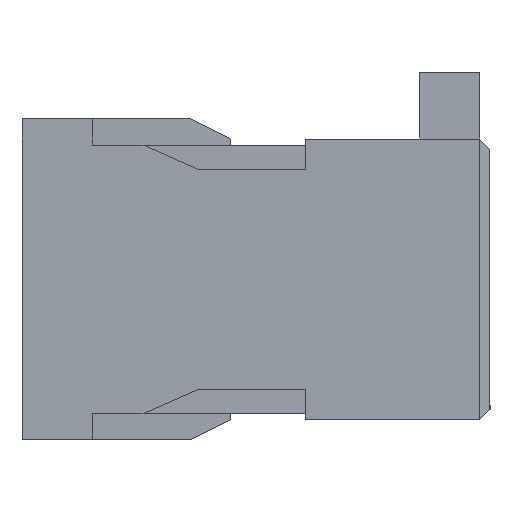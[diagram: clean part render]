
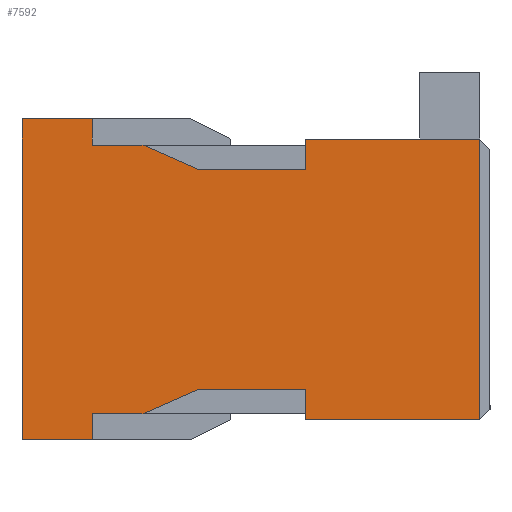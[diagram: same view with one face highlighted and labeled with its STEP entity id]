
A CAD part, left-side view. The second image highlights one B-rep face of the part: STEP entity #7592.
In plain terms, the highlighted planar face has unit normal (-1, 0, 0).
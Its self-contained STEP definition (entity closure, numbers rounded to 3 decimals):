
#5=DIRECTION('',(0.,1.,0.));
#6=VECTOR('',#5,0.76);
#7=CARTESIAN_POINT('',(6.,5.19,-0.39));
#8=LINE('',#7,#6);
#109=DIRECTION('',(0.,1.,0.));
#110=VECTOR('',#109,2.61);
#111=CARTESIAN_POINT('',(6.,0.15,
-0.3));
#112=LINE('',#111,#110);
#1289=DIRECTION('',(0.,-1.,0.));
#1290=VECTOR('',#1289,0.76);
#1291=CARTESIAN_POINT('',(6.,5.95,-4.41));
#1292=LINE('',#1291,#1290);
#1565=DIRECTION('',(0.,1.,0.));
#1566=VECTOR('',#1565,1.05);
#1567=CARTESIAN_POINT('',(6.,5.95,0.));
#1568=LINE('',#1567,#1566);
#1677=DIRECTION('',(0.,0.,1.));
#1678=VECTOR('',#1677,0.39);
#1679=CARTESIAN_POINT('',(6.,5.95,-0.39));
#1680=LINE('',#1679,#1678);
#1689=DIRECTION('',(0.,0.,1.));
#1690=VECTOR('',#1689,0.45);
#1691=CARTESIAN_POINT('',(6.,2.76,-4.5));
#1692=LINE('',#1691,#1690);
#1693=DIRECTION('',(0.,1.,0.));
#1694=VECTOR('',#1693,1.62);
#1695=CARTESIAN_POINT('',(6.,2.76,-4.05));
#1696=LINE('',#1695,#1694);
#1697=DIRECTION('',(0.,0.914,-0.406));
#1698=VECTOR('',#1697,0.886);
#1699=CARTESIAN_POINT('',(6.,4.38,-4.05));
#1700=LINE('',#1699,#1698);
#1701=DIRECTION('',(0.,1.,0.));
#1702=VECTOR('',#1701,1.05);
#1703=CARTESIAN_POINT('',(6.,5.95,-4.8));
#1704=LINE('',#1703,#1702);
#1705=DIRECTION('',(0.,0.,1.));
#1706=VECTOR('',#1705,4.8);
#1707=CARTESIAN_POINT('',(6.,7.,-4.8));
#1708=LINE('',#1707,#1706);
#1709=DIRECTION('',(0.,-0.914,-0.406));
#1710=VECTOR('',#1709,0.886);
#1711=CARTESIAN_POINT('',(6.,5.19,-0.39));
#1712=LINE('',#1711,#1710);
#1713=DIRECTION('',(0.,-1.,0.));
#1714=VECTOR('',#1713,1.62);
#1715=CARTESIAN_POINT('',(6.,4.38,
-0.75));
#1716=LINE('',#1715,#1714);
#1717=DIRECTION('',(0.,0.,1.));
#1718=VECTOR('',#1717,0.45);
#1719=CARTESIAN_POINT('',(6.,2.76,
-0.75));
#1720=LINE('',#1719,#1718);
#1721=DIRECTION('',(0.,1.,0.));
#1722=VECTOR('',#1721,2.61);
#1723=CARTESIAN_POINT('',(6.,0.15,
-4.5));
#1724=LINE('',#1723,#1722);
#1757=DIRECTION('',(0.,0.,1.));
#1758=VECTOR('',#1757,0.39);
#1759=CARTESIAN_POINT('',(6.,5.95,-4.8));
#1760=LINE('',#1759,#1758);
#1833=DIRECTION('',(0.,0.,1.));
#1834=VECTOR('',#1833,4.2);
#1835=CARTESIAN_POINT('',(6.,0.15,
-4.5));
#1836=LINE('',#1835,#1834);
#4665=CARTESIAN_POINT('',(6.,5.19,-0.39));
#4666=VERTEX_POINT('',#4665);
#4667=CARTESIAN_POINT('',(6.,5.95,-0.39));
#4668=VERTEX_POINT('',#4667);
#4677=CARTESIAN_POINT('',(6.,7.,-4.8));
#4678=CARTESIAN_POINT('',(6.,7.,0.));
#4679=VERTEX_POINT('',#4677);
#4680=VERTEX_POINT('',#4678);
#4769=CARTESIAN_POINT('',(6.,5.95,0.));
#4770=VERTEX_POINT('',#4769);
#4775=CARTESIAN_POINT('',(6.,2.76,-4.5));
#4776=CARTESIAN_POINT('',(6.,2.76,-4.05));
#4777=VERTEX_POINT('',#4775);
#4778=VERTEX_POINT('',#4776);
#4779=CARTESIAN_POINT('',(6.,4.38,-4.05));
#4780=VERTEX_POINT('',#4779);
#4781=CARTESIAN_POINT('',(6.,5.19,-4.41));
#4782=VERTEX_POINT('',#4781);
#4783=CARTESIAN_POINT('',(6.,5.95,-4.41));
#4784=VERTEX_POINT('',#4783);
#4785=CARTESIAN_POINT('',(6.,5.95,-4.8));
#4786=VERTEX_POINT('',#4785);
#4787=CARTESIAN_POINT('',(6.,4.38,
-0.75));
#4788=VERTEX_POINT('',#4787);
#4789=CARTESIAN_POINT('',(6.,2.76,
-0.75));
#4790=VERTEX_POINT('',#4789);
#4791=CARTESIAN_POINT('',(6.,2.76,
-0.3));
#4792=VERTEX_POINT('',#4791);
#4793=CARTESIAN_POINT('',(6.,0.15,
-0.3));
#4794=VERTEX_POINT('',#4793);
#4795=CARTESIAN_POINT('',(6.,0.15,
-4.5));
#4796=VERTEX_POINT('',#4795);
#7563=CARTESIAN_POINT('',(6.,3.575,-2.4));
#7564=DIRECTION('',(1.,0.,0.));
#7565=DIRECTION('',(0.,0.,-1.));
#7566=AXIS2_PLACEMENT_3D('',#7563,#7564,#7565);
#7567=PLANE('',#7566);
#7568=ORIENTED_EDGE('',*,*,#7037,.T.);
#7570=ORIENTED_EDGE('',*,*,#7569,.T.);
#7572=ORIENTED_EDGE('',*,*,#7571,.T.);
#7573=ORIENTED_EDGE('',*,*,#7064,.F.);
#7575=ORIENTED_EDGE('',*,*,#7574,.F.);
#7576=ORIENTED_EDGE('',*,*,#7142,.T.);
#7577=ORIENTED_EDGE('',*,*,#7205,.T.);
#7578=ORIENTED_EDGE('',*,*,#7444,.F.);
#7579=ORIENTED_EDGE('',*,*,#7556,.F.);
#7580=ORIENTED_EDGE('',*,*,#4936,.F.);
#7582=ORIENTED_EDGE('',*,*,#7581,.T.);
#7584=ORIENTED_EDGE('',*,*,#7583,.T.);
#7585=ORIENTED_EDGE('',*,*,#5004,.T.);
#7586=ORIENTED_EDGE('',*,*,#5027,.F.);
#7588=ORIENTED_EDGE('',*,*,#7587,.F.);
#7589=ORIENTED_EDGE('',*,*,#7018,.T.);
#7590=EDGE_LOOP('',(#7568,#7570,#7572,#7573,#7575,#7576,#7577,#7578,#7579,#7580,
#7582,#7584,#7585,#7586,#7588,#7589));
#7591=FACE_OUTER_BOUND('',#7590,.F.);
#7592=ADVANCED_FACE('',(#7591),#7567,.F.);
#4936=EDGE_CURVE('',#4666,#4668,#8,.T.);
#5004=EDGE_CURVE('',#4790,#4792,#1720,.T.);
#5027=EDGE_CURVE('',#4794,#4792,#112,.T.);
#7018=EDGE_CURVE('',#4796,#4777,#1724,.T.);
#7037=EDGE_CURVE('',#4777,#4778,#1692,.T.);
#7064=EDGE_CURVE('',#4784,#4782,#1292,.T.);
#7142=EDGE_CURVE('',#4786,#4679,#1704,.T.);
#7205=EDGE_CURVE('',#4679,#4680,#1708,.T.);
#7444=EDGE_CURVE('',#4770,#4680,#1568,.T.);
#7556=EDGE_CURVE('',#4668,#4770,#1680,.T.);
#7569=EDGE_CURVE('',#4778,#4780,#1696,.T.);
#7571=EDGE_CURVE('',#4780,#4782,#1700,.T.);
#7574=EDGE_CURVE('',#4786,#4784,#1760,.T.);
#7581=EDGE_CURVE('',#4666,#4788,#1712,.T.);
#7583=EDGE_CURVE('',#4788,#4790,#1716,.T.);
#7587=EDGE_CURVE('',#4796,#4794,#1836,.T.);
